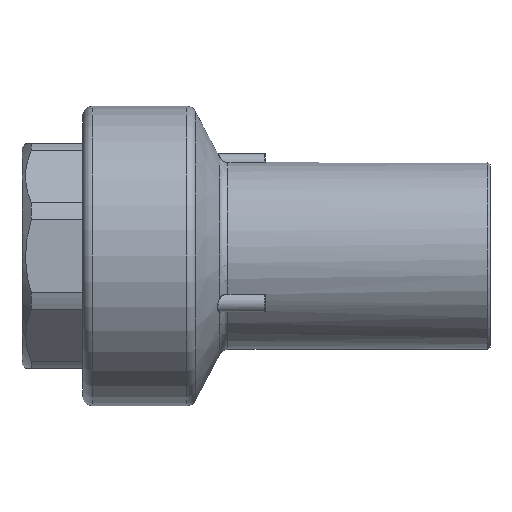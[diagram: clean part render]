
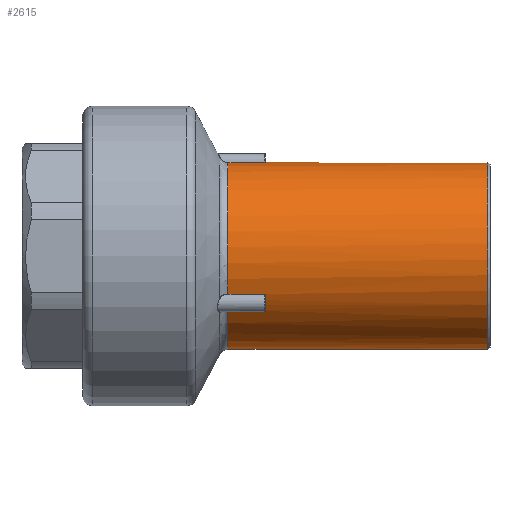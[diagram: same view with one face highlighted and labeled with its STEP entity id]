
A CAD part, front view. The second image highlights one B-rep face of the part: STEP entity #2615.
In plain terms, the highlighted cylindrical face has radius 20 mm (diameter 40 mm), a full revolution.
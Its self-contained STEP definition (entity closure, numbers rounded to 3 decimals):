
#70=B_SPLINE_CURVE_WITH_KNOTS('',3,(#4870,#4871,#4872,#4873),
 .UNSPECIFIED.,.F.,.F.,(4,4),(0.,0.),.UNSPECIFIED.);
#71=B_SPLINE_CURVE_WITH_KNOTS('',3,(#4892,#4893,#4894,#4895),
 .UNSPECIFIED.,.F.,.F.,(4,4),(0.,0.),.UNSPECIFIED.);
#72=B_SPLINE_CURVE_WITH_KNOTS('',3,(#4916,#4917,#4918,#4919),
 .UNSPECIFIED.,.F.,.F.,(4,4),(0.,0.),.UNSPECIFIED.);
#73=B_SPLINE_CURVE_WITH_KNOTS('',3,(#4938,#4939,#4940,#4941),
 .UNSPECIFIED.,.F.,.F.,(4,4),(0.,0.),.UNSPECIFIED.);
#74=B_SPLINE_CURVE_WITH_KNOTS('',3,(#4962,#4963,#4964,#4965),
 .UNSPECIFIED.,.F.,.F.,(4,4),(0.,0.),.UNSPECIFIED.);
#75=B_SPLINE_CURVE_WITH_KNOTS('',3,(#4984,#4985,#4986,#4987),
 .UNSPECIFIED.,.F.,.F.,(4,4),(0.,0.),.UNSPECIFIED.);
#168=LINE('',#4857,#332);
#169=LINE('',#4899,#333);
#170=LINE('',#4903,#334);
#171=LINE('',#4945,#335);
#172=LINE('',#4949,#336);
#173=LINE('',#4991,#337);
#332=VECTOR('',#3866,1000.);
#333=VECTOR('',#3879,1000.);
#334=VECTOR('',#3884,1000.);
#335=VECTOR('',#3897,1000.);
#336=VECTOR('',#3902,1000.);
#337=VECTOR('',#3915,1000.);
#903=ORIENTED_EDGE('',*,*,#1456,.F.);
#904=ORIENTED_EDGE('',*,*,#1448,.T.);
#905=ORIENTED_EDGE('',*,*,#1446,.F.);
#906=ORIENTED_EDGE('',*,*,#1444,.T.);
#907=ORIENTED_EDGE('',*,*,#1442,.F.);
#908=ORIENTED_EDGE('',*,*,#1441,.T.);
#909=ORIENTED_EDGE('',*,*,#1450,.F.);
#910=ORIENTED_EDGE('',*,*,#1439,.T.);
#911=ORIENTED_EDGE('',*,*,#1437,.F.);
#912=ORIENTED_EDGE('',*,*,#1435,.T.);
#913=ORIENTED_EDGE('',*,*,#1433,.F.);
#914=ORIENTED_EDGE('',*,*,#1432,.T.);
#915=ORIENTED_EDGE('',*,*,#1453,.F.);
#916=ORIENTED_EDGE('',*,*,#1430,.T.);
#917=ORIENTED_EDGE('',*,*,#1428,.F.);
#918=ORIENTED_EDGE('',*,*,#1426,.T.);
#919=ORIENTED_EDGE('',*,*,#1424,.F.);
#920=ORIENTED_EDGE('',*,*,#1423,.T.);
#921=ORIENTED_EDGE('',*,*,#1462,.T.);
#1423=EDGE_CURVE('',#1748,#1746,#168,.T.);
#1424=EDGE_CURVE('',#1748,#1749,#70,.T.);
#1426=EDGE_CURVE('',#1750,#1749,#1957,.F.);
#1428=EDGE_CURVE('',#1750,#1751,#71,.T.);
#1430=EDGE_CURVE('',#1741,#1751,#169,.F.);
#1432=EDGE_CURVE('',#1752,#1736,#170,.T.);
#1433=EDGE_CURVE('',#1752,#1753,#72,.T.);
#1435=EDGE_CURVE('',#1754,#1753,#1962,.F.);
#1437=EDGE_CURVE('',#1754,#1755,#73,.T.);
#1439=EDGE_CURVE('',#1733,#1755,#171,.F.);
#1441=EDGE_CURVE('',#1756,#1728,#172,.T.);
#1442=EDGE_CURVE('',#1756,#1757,#74,.T.);
#1444=EDGE_CURVE('',#1758,#1757,#1967,.F.);
#1446=EDGE_CURVE('',#1758,#1759,#75,.T.);
#1448=EDGE_CURVE('',#1745,#1759,#173,.F.);
#1450=EDGE_CURVE('',#1733,#1728,#1970,.T.);
#1453=EDGE_CURVE('',#1741,#1736,#1972,.T.);
#1456=EDGE_CURVE('',#1745,#1746,#1974,.T.);
#1462=EDGE_CURVE('',#1764,#1764,#1980,.F.);
#1728=VERTEX_POINT('',#4678);
#1733=VERTEX_POINT('',#4711);
#1736=VERTEX_POINT('',#4750);
#1741=VERTEX_POINT('',#4783);
#1745=VERTEX_POINT('',#4824);
#1746=VERTEX_POINT('',#4846);
#1748=VERTEX_POINT('',#4856);
#1749=VERTEX_POINT('',#4874);
#1750=VERTEX_POINT('',#4878);
#1751=VERTEX_POINT('',#4896);
#1752=VERTEX_POINT('',#4902);
#1753=VERTEX_POINT('',#4920);
#1754=VERTEX_POINT('',#4924);
#1755=VERTEX_POINT('',#4942);
#1756=VERTEX_POINT('',#4948);
#1757=VERTEX_POINT('',#4966);
#1758=VERTEX_POINT('',#4970);
#1759=VERTEX_POINT('',#4988);
#1764=VERTEX_POINT('',#5100);
#1957=CIRCLE('',#3347,20.);
#1962=CIRCLE('',#3355,20.);
#1967=CIRCLE('',#3363,20.);
#1970=CIRCLE('',#3368,20.);
#1972=CIRCLE('',#3371,20.);
#1974=CIRCLE('',#3374,20.);
#1980=CIRCLE('',#3386,20.);
#2164=EDGE_LOOP('',(#903,#904,#905,#906,#907,#908,#909,#910,#911,#912,#913,
#914,#915,#916,#917,#918,#919,#920));
#2165=EDGE_LOOP('',(#921));
#2380=FACE_BOUND('',#2164,.T.);
#2381=FACE_BOUND('',#2165,.T.);
#2505=CYLINDRICAL_SURFACE('',#3385,20.);
#2615=ADVANCED_FACE('',(#2380,#2381),#2505,.T.);
#3347=AXIS2_PLACEMENT_3D('',#4877,#3871,#3872);
#3355=AXIS2_PLACEMENT_3D('',#4923,#3889,#3890);
#3363=AXIS2_PLACEMENT_3D('',#4969,#3907,#3908);
#3368=AXIS2_PLACEMENT_3D('',#5021,#3918,#3919);
#3371=AXIS2_PLACEMENT_3D('',#5052,#3924,#3925);
#3374=AXIS2_PLACEMENT_3D('',#5083,#3930,#3931);
#3385=AXIS2_PLACEMENT_3D('',#5098,#3952,#3953);
#3386=AXIS2_PLACEMENT_3D('',#5099,#3954,#3955);
#3866=DIRECTION('',(-1.,0.,0.));
#3871=DIRECTION('',(-1.,0.,0.));
#3872=DIRECTION('',(0.,0.5,0.866));
#3879=DIRECTION('',(-1.,0.,0.));
#3884=DIRECTION('',(-1.,0.,0.));
#3889=DIRECTION('',(-1.,0.,0.));
#3890=DIRECTION('',(0.,0.5,-0.866));
#3897=DIRECTION('',(-1.,0.,0.));
#3902=DIRECTION('',(-1.,0.,0.));
#3907=DIRECTION('',(-1.,0.,0.));
#3908=DIRECTION('',(0.,-1.,0.));
#3915=DIRECTION('',(-1.,0.,0.));
#3918=DIRECTION('',(-1.,0.,0.));
#3919=DIRECTION('',(0.,0.,1.));
#3924=DIRECTION('',(-1.,0.,0.));
#3925=DIRECTION('',(0.,0.,1.));
#3930=DIRECTION('',(-1.,0.,0.));
#3931=DIRECTION('',(0.,0.,1.));
#3952=DIRECTION('',(-1.,0.,0.));
#3953=DIRECTION('',(0.,0.,1.));
#3954=DIRECTION('',(1.,0.,0.));
#3955=DIRECTION('',(0.,0.,-1.));
#4678=CARTESIAN_POINT('',(31.,-2.088,19.891));
#4711=CARTESIAN_POINT('',(31.,-18.27,-8.137));
#4750=CARTESIAN_POINT('',(31.,-16.182,-11.753));
#4783=CARTESIAN_POINT('',(31.,16.182,-11.753));
#4824=CARTESIAN_POINT('',(31.,2.088,19.891));
#4846=CARTESIAN_POINT('',(31.,18.27,-8.137));
#4856=CARTESIAN_POINT('',(38.9,18.27,-8.137));
#4857=CARTESIAN_POINT('',(-60.,18.27,-8.137));
#4870=CARTESIAN_POINT('',(38.9,18.27,-8.137));
#4871=CARTESIAN_POINT('',(39.006,18.27,-8.137));
#4872=CARTESIAN_POINT('',(39.1,18.231,-8.225));
#4873=CARTESIAN_POINT('',(39.1,18.187,-8.321));
#4874=CARTESIAN_POINT('',(39.1,18.187,-8.321));
#4877=CARTESIAN_POINT('',(39.1,0.,0.));
#4878=CARTESIAN_POINT('',(39.1,16.3,-11.59));
#4892=CARTESIAN_POINT('',(39.1,16.3,-11.59));
#4893=CARTESIAN_POINT('',(39.1,16.238,-11.676));
#4894=CARTESIAN_POINT('',(39.006,16.182,-11.753));
#4895=CARTESIAN_POINT('',(38.9,16.182,-11.753));
#4896=CARTESIAN_POINT('',(38.9,16.182,-11.753));
#4899=CARTESIAN_POINT('',(-60.,16.182,-11.753));
#4902=CARTESIAN_POINT('',(38.9,-16.182,-11.753));
#4903=CARTESIAN_POINT('',(-60.,-16.182,-11.753));
#4916=CARTESIAN_POINT('',(38.9,-16.182,-11.753));
#4917=CARTESIAN_POINT('',(39.006,-16.182,-11.753));
#4918=CARTESIAN_POINT('',(39.1,-16.238,-11.676));
#4919=CARTESIAN_POINT('',(39.1,-16.3,-11.59));
#4920=CARTESIAN_POINT('',(39.1,-16.3,-11.59));
#4923=CARTESIAN_POINT('',(39.1,0.,0.));
#4924=CARTESIAN_POINT('',(39.1,-18.187,-8.321));
#4938=CARTESIAN_POINT('',(39.1,-18.187,-8.321));
#4939=CARTESIAN_POINT('',(39.1,-18.231,-8.225));
#4940=CARTESIAN_POINT('',(39.006,-18.27,-8.137));
#4941=CARTESIAN_POINT('',(38.9,-18.27,-8.137));
#4942=CARTESIAN_POINT('',(38.9,-18.27,-8.137));
#4945=CARTESIAN_POINT('',(-60.,-18.27,-8.137));
#4948=CARTESIAN_POINT('',(38.9,-2.088,19.891));
#4949=CARTESIAN_POINT('',(-60.,-2.088,19.891));
#4962=CARTESIAN_POINT('',(38.9,-2.088,19.891));
#4963=CARTESIAN_POINT('',(39.006,-2.088,19.891));
#4964=CARTESIAN_POINT('',(39.1,-1.993,19.901));
#4965=CARTESIAN_POINT('',(39.1,-1.887,19.911));
#4966=CARTESIAN_POINT('',(39.1,-1.887,19.911));
#4969=CARTESIAN_POINT('',(39.1,0.,0.));
#4970=CARTESIAN_POINT('',(39.1,1.887,19.911));
#4984=CARTESIAN_POINT('',(39.1,1.887,19.911));
#4985=CARTESIAN_POINT('',(39.1,1.993,19.901));
#4986=CARTESIAN_POINT('',(39.006,2.088,19.891));
#4987=CARTESIAN_POINT('',(38.9,2.088,19.891));
#4988=CARTESIAN_POINT('',(38.9,2.088,19.891));
#4991=CARTESIAN_POINT('',(-60.,2.088,19.891));
#5021=CARTESIAN_POINT('',(31.,0.,0.));
#5052=CARTESIAN_POINT('',(31.,0.,0.));
#5083=CARTESIAN_POINT('',(31.,0.,0.));
#5098=CARTESIAN_POINT('',(-60.,0.,0.));
#5099=CARTESIAN_POINT('',(86.5,0.,0.));
#5100=CARTESIAN_POINT('',(86.5,0.,-20.));
